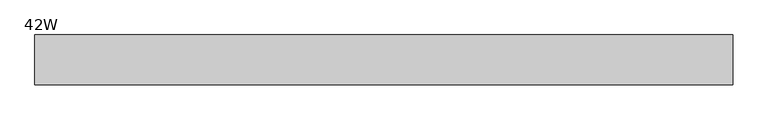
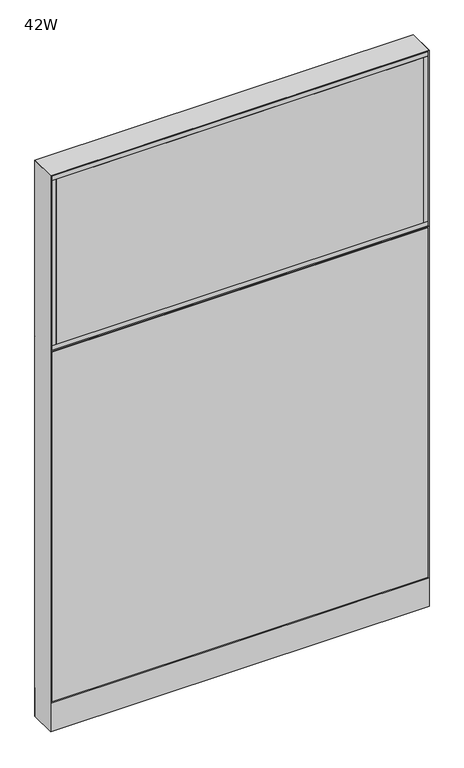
"""IFC4 building model written with IfcOpenShell, lengths in millimetres: furniture geometry, Steelcase - Montage - Frame - 65H - Enhanced Standard - Base Cavity : 42W."""

from ifc_helpers import new_model, si_unit, point, frame, frame_2d, origin, origin_with_axes, place, context, project, spatial, polyline, circle_curve, trimmed, segment, composite_curve, outline, extrude, faceted_brep, source, transform, mapped, element, save


def furniture_42w_353a00c2(model_context):
    return source(origin(), model_context, "Body", "SolidModel", [
        faceted_brep([(-5.4e-06, 38.102627, 1136.6500027), (6.3499917, 31.7526299, 1142.9999997), (1060.4500047, 31.7526299, 1142.9999997), (1066.8, 38.1026253, 1136.6500044), (1060.4500047, 31.7526299, 1130.3000003), (6.3499917, 31.7526299, 1130.3000003)], [[[0, 1, 2, 3]], [[3, 4, 5, 0]], [[1, 5, 4, 2]], [[0, 5, 1]], [[2, 4, 3]]]),
        extrude(outline(polyline([(1050.925, 38.1000015), (1050.925, 31.7500017), (15.875, 31.7500017), (15.875, 38.1000015), (1050.925, 38.1000015)])), frame((0.0, 0.0, 1152.525), z_axis=(0.0, 0.0, 1.0), x_axis=(1.0, 0.0, 0.0)), (0.0, 0.0, 1.0), 492.125),
        extrude(outline(polyline([(1050.925, -31.7499985), (1050.925, -38.1000015), (15.875, -38.1000015), (15.875, -31.7499985), (1050.925, -31.7499985)])), frame((0.0, 0.0, 1152.525), z_axis=(0.0, 0.0, 1.0), x_axis=(1.0, 0.0, 0.0)), (0.0, 0.0, 1.0), 492.125),
        extrude(outline(polyline([(1063.625, -38.1000015), (1050.925, -38.1000015), (1050.925, 38.1000015), (1063.625, 38.1000015), (1063.625, -38.1000015)])), frame((0.0, 0.0, 1152.525), z_axis=(0.0, 0.0, 1.0), x_axis=(1.0, 0.0, 0.0)), (0.0, 0.0, 1.0), 492.125),
        extrude(outline(polyline([(15.875, -38.1000015), (3.175, -38.1000015), (3.175, 38.1000015), (15.875, 38.1000015), (15.875, -38.1000015)])), frame((0.0, 0.0, 1152.525), z_axis=(0.0, 0.0, 1.0), x_axis=(1.0, 0.0, 0.0)), (0.0, 0.0, 1.0), 492.125),
        extrude(outline(polyline([(1063.625, -38.1000015), (3.175, -38.1000015), (3.175, 38.1000015), (1063.625, 38.1000015), (1063.625, -38.1000015)])), frame((0.0, 0.0, 1139.825), z_axis=(0.0, 0.0, 1.0), x_axis=(1.0, 0.0, 0.0)), (0.0, 0.0, 1.0), 12.7),
        extrude(outline(polyline([(1063.625, -38.1000015), (3.175, -38.1000015), (3.175, 38.1000015), (1063.625, 38.1000015), (1063.625, -38.1000015)])), frame((0.0, 0.0, 1644.65), z_axis=(0.0, 0.0, 1.0), x_axis=(1.0, 0.0, 0.0)), (0.0, 0.0, 1.0), 12.7),
        extrude(outline(polyline([(3.175, 31.7500194), (3.175, 38.1000194), (1063.625, 38.1000194), (1063.625, 31.7500194), (3.175, 31.7500194)])), frame((0.0, 0.0, 92.075), z_axis=(0.0, 0.0, 1.0), x_axis=(1.0, 0.0, 0.0)), (0.0, 0.0, 1.0), 1041.4),
        faceted_brep([(0.0, -38.1026297, 1136.65), (1066.8, -38.1026297, 1136.65), (1060.4500047, -31.7526299, 1142.9999997), (6.3499917, -31.7526299, 1142.9999997), (6.3499917, -31.7526299, 1130.3000003), (1060.4500047, -31.7526299, 1130.3000003)], [[[0, 1, 2, 3]], [[1, 0, 4, 5]], [[3, 2, 5, 4]], [[0, 3, 4]], [[2, 1, 5]]]),
        extrude(outline(polyline([(1050.925, -38.1000015), (15.875, -38.1000015), (15.875, -31.7500017), (1050.925, -31.7500017), (1050.925, -38.1000015)])), frame((0.0, 0.0, 1152.525), z_axis=(0.0, 0.0, 1.0), x_axis=(1.0, 0.0, 0.0)), (0.0, 0.0, 1.0), 492.125),
        extrude(outline(polyline([(1050.925, 31.7499985), (15.875, 31.7499985), (15.875, 38.1000015), (1050.925, 38.1000015), (1050.925, 31.7499985)])), frame((0.0, 0.0, 1152.525), z_axis=(0.0, 0.0, 1.0), x_axis=(1.0, 0.0, 0.0)), (0.0, 0.0, 1.0), 492.125),
        extrude(outline(polyline([(1063.625, 38.1000015), (1063.625, -38.1000015), (1050.925, -38.1000015), (1050.925, 38.1000015), (1063.625, 38.1000015)])), frame((0.0, 0.0, 1152.525), z_axis=(0.0, 0.0, 1.0), x_axis=(1.0, 0.0, 0.0)), (0.0, 0.0, 1.0), 492.125),
        extrude(outline(polyline([(15.875, 38.1000015), (15.875, -38.1000015), (3.175, -38.1000015), (3.175, 38.1000015), (15.875, 38.1000015)])), frame((0.0, 0.0, 1152.525), z_axis=(0.0, 0.0, 1.0), x_axis=(1.0, 0.0, 0.0)), (0.0, 0.0, 1.0), 492.125),
        extrude(outline(polyline([(1063.625, 38.1000015), (1063.625, -38.1000015), (3.175, -38.1000015), (3.175, 38.1000015), (1063.625, 38.1000015)])), frame((0.0, 0.0, 1139.825), z_axis=(0.0, 0.0, 1.0), x_axis=(1.0, 0.0, 0.0)), (0.0, 0.0, 1.0), 12.7),
        extrude(outline(polyline([(1063.625, 38.1000015), (1063.625, -38.1000015), (3.175, -38.1000015), (3.175, 38.1000015), (1063.625, 38.1000015)])), frame((0.0, 0.0, 1644.65), z_axis=(0.0, 0.0, 1.0), x_axis=(1.0, 0.0, 0.0)), (0.0, 0.0, 1.0), 12.7),
        extrude(outline(polyline([(3.175, -31.7500194), (1063.625, -31.7500194), (1063.625, -38.1000194), (3.175, -38.1000194), (3.175, -31.7500194)])), frame((0.0, 0.0, 92.075), z_axis=(0.0, 0.0, 1.0), x_axis=(1.0, 0.0, 0.0)), (0.0, 0.0, 1.0), 1041.4),
        extrude(outline(polyline([(6.350003, -31.7499985), (1060.449997, -31.7499985), (1066.8, -38.1000015), (0.0, -38.1000015), (6.350003, -31.7499985)])), frame((0.0, 0.0, 4.064), z_axis=(0.0, 0.0, 1.0), x_axis=(1.0, 0.0, 0.0)), (0.0, 0.0, 1.0), 84.835997),
        extrude(outline(polyline([(6.3500002, 31.7500017), (0.0, 38.1000015), (1066.8, 38.1000015), (1060.4500002, 31.7500017), (6.3500002, 31.7500017)])), frame((0.0, 0.0, 4.064), z_axis=(0.0, 0.0, 1.0), x_axis=(1.0, 0.0, 0.0)), (0.0, 0.0, 1.0), 84.835997),
        faceted_brep([(1066.8, -38.1000015, 1660.525), (0.0, -38.1000015, 1660.525), (6.3500484, -31.749953, 1654.1749516), (1060.4499516, -31.749953, 1654.1749516), (6.3500484, 31.749953, 1654.1749516), (1060.4499516, 31.749953, 1654.1749516), (0.0, 38.1000015, 1660.525), (1066.8, 38.1000015, 1660.525)], [[[0, 1, 2, 3]], [[3, 2, 4, 5]], [[6, 7, 5, 4]], [[1, 0, 7, 6]], [[2, 1, 6, 4]], [[0, 3, 5, 7]]]),
        extrude(outline(composite_curve([segment(trimmed(circle_curve(frame_2d((44.45, 0.0)), 15.24), [point((29.21, 0.0))], [point((59.69, 0.0))], False, "CARTESIAN"), True, "CONTINUOUS"), segment(trimmed(circle_curve(frame_2d((44.45, 0.0)), 15.24), [point((59.69, 0.0))], [point((29.21, 0.0))], False, "CARTESIAN"), True, "CONTINUOUS")], self_intersect=False)), origin_with_axes(), (0.0, 0.0, 1.0), 4.064),
        extrude(outline(composite_curve([segment(trimmed(circle_curve(frame_2d((1022.35, 0.0)), 15.24), [point((1007.11, 0.0))], [point((1037.59, 0.0))], False, "CARTESIAN"), True, "CONTINUOUS"), segment(trimmed(circle_curve(frame_2d((1022.35, 0.0)), 15.24), [point((1037.59, 0.0))], [point((1007.11, 0.0))], False, "CARTESIAN"), True, "CONTINUOUS")], self_intersect=False)), origin_with_axes(), (0.0, 0.0, 1.0), 4.064),
        faceted_brep([(1066.8, -38.1000106, 4.064), (1066.8, 38.1000015, 4.064), (1066.8, 38.1000015, 1660.525), (1066.8, -38.1000106, 1660.5249637), (0.0, 38.1000015, 4.064), (0.0, -38.1000015, 4.064), (0.0, -38.1000015, 1660.525), (0.0, 38.1000015, 1660.525), (1060.4499879, 31.7500017, 606.425), (6.35, 31.7500017, 606.425), (6.3499998, 31.7500017, 619.125), (1060.4499879, 31.7500017, 619.125), (6.35, -31.7499985, 619.125), (1060.4499879, -31.7499985, 619.125), (6.350003, -31.7499985, 606.425), (1060.4499879, -31.7499985, 606.425), (1060.4499879, 31.7500017, 1130.3), (6.35, 31.7500017, 1130.3), (6.3499998, 31.7500017, 1143.0), (1060.4499879, 31.7500017, 1143.0), (6.35, -31.7499985, 1143.0), (1060.4499879, -31.7499985, 1143.0), (6.350003, -31.7499985, 1130.3), (1060.4499879, -31.7499985, 1130.3), (6.35, 31.7500015, 4.064), (6.35, -31.7500015, 4.064), (1060.4499879, 31.7499894, 4.064), (1060.4499879, -31.7499985, 4.064), (6.35, 31.7500015, 1654.175), (6.35, -31.7500015, 1654.175), (1060.4499879, -31.7499985, 1654.1749516), (1060.4499879, 31.7499895, 1654.1749516)], [[[0, 1, 2, 3]], [[4, 5, 6, 7]], [[8, 9, 10, 11]], [[11, 10, 12, 13]], [[13, 12, 14, 15]], [[9, 8, 15, 14]], [[16, 17, 18, 19]], [[19, 18, 20, 21]], [[21, 20, 22, 23]], [[17, 16, 23, 22]], [[24, 25, 5, 4]], [[26, 1, 0, 27]], [[24, 4, 7, 28, 18, 17, 10, 9]], [[5, 25, 14, 12, 22, 20, 29, 6]], [[20, 18, 28, 29]], [[25, 24, 9, 14]], [[10, 17, 22, 12]], [[19, 21, 30, 31]], [[26, 27, 15, 8]], [[16, 11, 13, 23]], [[27, 0, 3, 30, 21, 23, 13, 15]], [[1, 26, 8, 11, 16, 19, 31, 2]], [[7, 6, 29, 28]], [[3, 2, 31, 30]]]),
    ])


if __name__ == "__main__":
    model = new_model("IFC4")
    model_context = context("Model", 3, world=origin())
    ifc_project = project(units=[si_unit("LENGTHUNIT", "METRE", prefix="MILLI")], contexts=[model_context])
    site = spatial("IfcSite", under=ifc_project)
    building = spatial("IfcBuilding", under=site)
    placement = place(None, origin())
    furniture_42w_shape = furniture_42w_353a00c2(model_context)
    element("IfcFurniture", 1, ObjectType="Steelcase - Montage - Frame - 65H - Enhanced Standard - Base Cavity : 42W", at=placement, inside=building, context=model_context, shape_type="MappedRepresentation", body=[
        mapped(furniture_42w_shape, transform((0.0, 0.0, 0.0), x_axis=(1.0, 0.0, 0.0), y_axis=(0.0, 1.0, 0.0), z_axis=(0.0, 0.0, 1.0))),
    ])
    save(model, "model.ifc")
